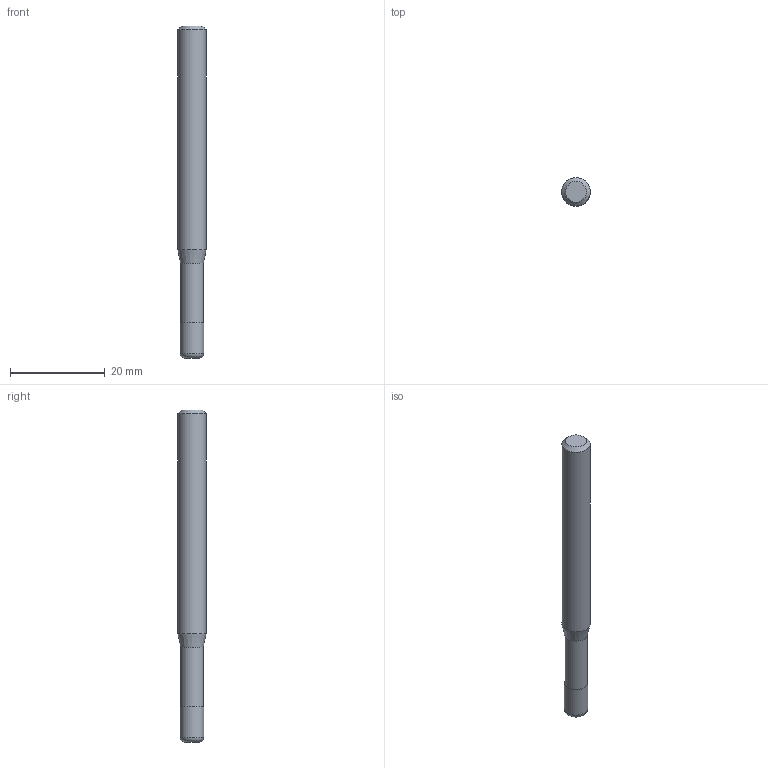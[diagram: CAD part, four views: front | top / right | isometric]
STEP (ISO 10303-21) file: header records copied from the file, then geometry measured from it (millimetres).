
FILE_DESCRIPTION((''),'2;1');
FILE_NAME('C:\Users\nsx150\AppData\Local\Temp\Mastercam 2021\17T8Q8S9EB\TEMP.step','2021-04-21T14:40:31',(''),(''),'STEP Write','Mastercam 2021 ... CNC Software, Inc.','');
FILE_SCHEMA(('AUTOMOTIVE_DESIGN'));
Length unit declared in the file: millimetre
Products named in the file (1): None
Bounding box: 6 x 6 x 70 mm (x, y, z)
Volume: 1763.7 mm3; surface area: 1313.3 mm2
Topology: 2 solids, 2 shells, 10 faces, 14 edges, 8 vertices
Faces by surface type: plane 4, cylinder 3, cone 2, torus 1
Full cylindrical faces by diameter (mm): 4.8 x1, 5 x1, 6 x1
Entity records: 232 total; most frequent: DIRECTION 40, CARTESIAN_POINT 28, AXIS2_PLACEMENT_3D 20, ORIENTED_EDGE 16, EDGE_LOOP 16, STYLED_ITEM 13, ADVANCED_FACE 10, FACE_BOUND 10
